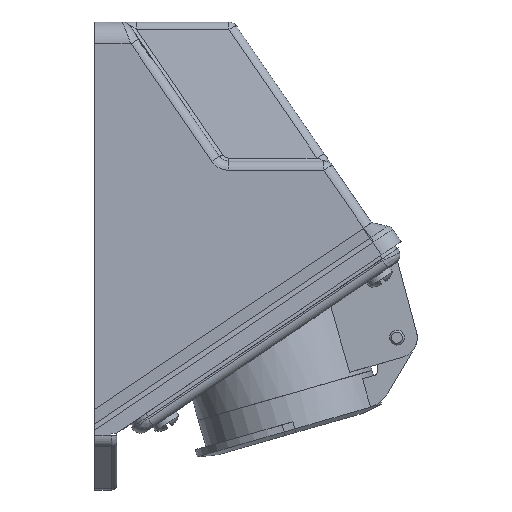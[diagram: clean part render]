
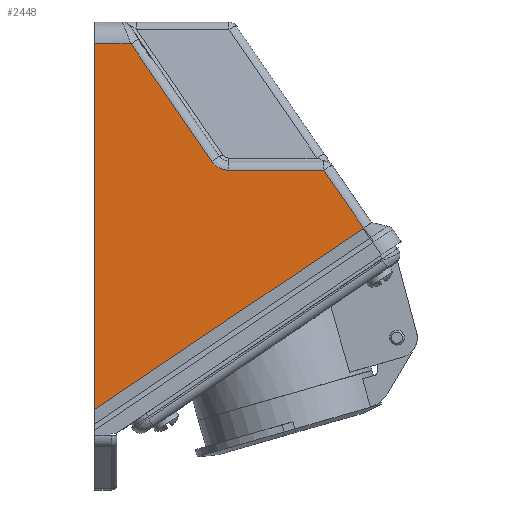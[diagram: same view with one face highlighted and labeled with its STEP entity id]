
A CAD part, front view. The second image highlights one B-rep face of the part: STEP entity #2448.
In plain terms, the highlighted planar face has unit normal (-0.005, -1, 0.007).
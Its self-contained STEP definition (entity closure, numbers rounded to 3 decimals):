
#343=ELLIPSE('',#7592,5.5,5.5);
#2448=ADVANCED_FACE('',(#2815),#2623,.F.);
#2623=PLANE('',#7732);
#2815=FACE_OUTER_BOUND('',#3065,.T.);
#3065=EDGE_LOOP('',(#4134,#4135,#4136,#4137,#4138,#4139,#4140,#4141));
#4134=ORIENTED_EDGE('',*,*,#6041,.T.);
#4135=ORIENTED_EDGE('',*,*,#5857,.F.);
#4136=ORIENTED_EDGE('',*,*,#6060,.F.);
#4137=ORIENTED_EDGE('',*,*,#5873,.T.);
#4138=ORIENTED_EDGE('',*,*,#6061,.F.);
#4139=ORIENTED_EDGE('',*,*,#6062,.T.);
#4140=ORIENTED_EDGE('',*,*,#6063,.F.);
#4141=ORIENTED_EDGE('',*,*,#6057,.F.);
#5122=VERTEX_POINT('',#10437);
#5129=VERTEX_POINT('',#10534);
#5130=VERTEX_POINT('',#10535);
#5134=VERTEX_POINT('',#10555);
#5145=VERTEX_POINT('',#10601);
#5254=VERTEX_POINT('',#11173);
#5257=VERTEX_POINT('',#11227);
#5258=VERTEX_POINT('',#11229);
#5857=EDGE_CURVE('',#5129,#5130,#343,.T.);
#5873=EDGE_CURVE('',#5134,#5145,#6662,.T.);
#6041=EDGE_CURVE('',#5254,#5130,#6747,.T.);
#6057=EDGE_CURVE('',#5254,#5122,#6758,.T.);
#6060=EDGE_CURVE('',#5134,#5129,#6760,.T.);
#6061=EDGE_CURVE('',#5257,#5145,#6761,.T.);
#6062=EDGE_CURVE('',#5257,#5258,#6762,.T.);
#6063=EDGE_CURVE('',#5122,#5258,#6763,.T.);
#6662=LINE('',#10600,#7104);
#6747=LINE('',#11172,#7189);
#6758=LINE('',#11220,#7200);
#6760=LINE('',#11225,#7202);
#6761=LINE('',#11226,#7203);
#6762=LINE('',#11228,#7204);
#6763=LINE('',#11230,#7205);
#7104=VECTOR('',#8523,1.);
#7189=VECTOR('',#8836,1.);
#7200=VECTOR('',#8863,1.);
#7202=VECTOR('',#8871,1.);
#7203=VECTOR('',#8872,1.);
#7204=VECTOR('',#8873,1.);
#7205=VECTOR('',#8874,1.);
#7592=AXIS2_PLACEMENT_3D('',#10533,#8491,#8492);
#7732=AXIS2_PLACEMENT_3D('',#11231,#8875,#8876);
#8491=DIRECTION('',(-0.005,-1.,0.007));
#8492=DIRECTION('',(0.559,-0.009,-0.829));
#8523=DIRECTION('',(-1.,0.005,0.));
#8836=DIRECTION('',(-1.,0.005,0.));
#8863=DIRECTION('',(0.566,-0.009,-0.824));
#8871=DIRECTION('',(0.566,-0.009,-0.824));
#8872=DIRECTION('',(0.,0.007,1.));
#8873=DIRECTION('',(0.829,0.,0.559));
#8874=DIRECTION('',(-0.829,0.,-0.559));
#8875=DIRECTION('',(0.005,1.,-0.007));
#8876=DIRECTION('',(-1.,0.005,0.));
#10437=CARTESIAN_POINT('',(56.372,-49.911,-19.72));
#10533=CARTESIAN_POINT('',(19.732,-49.578,1.5));
#10534=CARTESIAN_POINT('',(15.199,-49.579,-1.615));
#10535=CARTESIAN_POINT('',(19.732,-49.618,-4.));
#10555=CARTESIAN_POINT('',(-6.714,-49.241,30.269));
#10600=CARTESIAN_POINT('',(-6.714,-49.241,30.269));
#10601=CARTESIAN_POINT('',(-16.585,-49.193,30.269));
#11172=CARTESIAN_POINT('',(45.568,-49.744,-4.));
#11173=CARTESIAN_POINT('',(45.568,-49.744,-4.));
#11220=CARTESIAN_POINT('',(45.568,-49.744,-4.));
#11225=CARTESIAN_POINT('',(-6.714,-49.241,30.269));
#11226=CARTESIAN_POINT('',(-16.585,-49.911,-68.931));
#11227=CARTESIAN_POINT('',(-16.585,-49.911,-68.931));
#11228=CARTESIAN_POINT('',(-16.585,-49.911,-68.931));
#11229=CARTESIAN_POINT('',(56.258,-49.911,-19.798));
#11230=CARTESIAN_POINT('',(56.372,-49.911,-19.72));
#11231=CARTESIAN_POINT('',(-16.596,-49.15,36.235));
